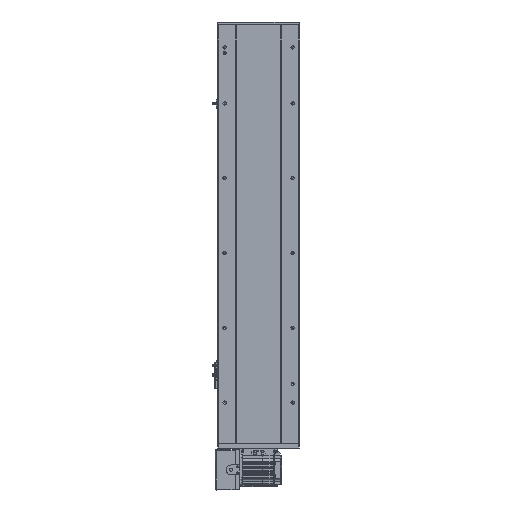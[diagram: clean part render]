
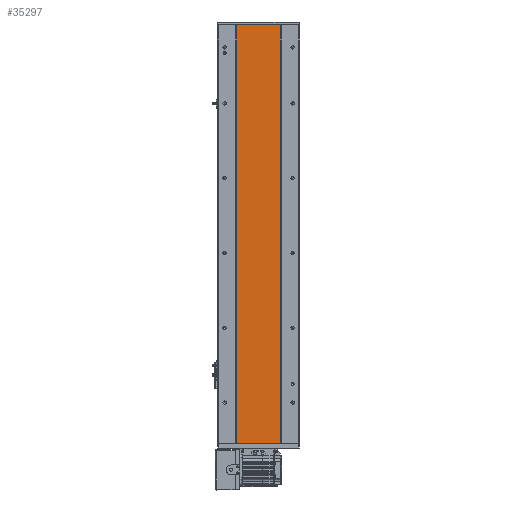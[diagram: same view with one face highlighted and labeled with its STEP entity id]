
A CAD part, front view. The second image highlights one B-rep face of the part: STEP entity #35297.
In plain terms, the highlighted planar face has unit normal (0, -1, 0).
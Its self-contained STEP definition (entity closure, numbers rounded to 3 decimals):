
#1749 = CARTESIAN_POINT ( 'NONE',  ( 0., 155.016, 1119. ) ) ;
#2478 = PLANE ( 'NONE',  #31867 ) ;
#2694 = VECTOR ( 'NONE', #43778, 1000. ) ;
#3095 = VERTEX_POINT ( 'NONE', #23187 ) ;
#6144 = VECTOR ( 'NONE', #40159, 1000. ) ;
#6363 = DIRECTION ( 'NONE',  ( 0., 0., -1. ) ) ;
#9795 = EDGE_CURVE ( 'NONE', #32452, #3095, #25160, .T. ) ;
#10277 = DIRECTION ( 'NONE',  ( 1., 0., 0. ) ) ;
#10724 = ORIENTED_EDGE ( 'NONE', *, *, #25083, .F. ) ;
#12908 = EDGE_LOOP ( 'NONE', ( #13001, #29621, #10724, #27113 ) ) ;
#13001 = ORIENTED_EDGE ( 'NONE', *, *, #49037, .T. ) ;
#13250 = VECTOR ( 'NONE', #10277, 1000. ) ;
#16887 = CARTESIAN_POINT ( 'NONE',  ( 551.58, 155.016, 1119. ) ) ;
#17907 = CARTESIAN_POINT ( 'NONE',  ( 551.58, 155.016, 0. ) ) ;
#20634 = LINE ( 'NONE', #36170, #6144 ) ;
#21032 = DIRECTION ( 'NONE',  ( 0., 1., 0. ) ) ;
#21997 = VERTEX_POINT ( 'NONE', #16887 ) ;
#23187 = CARTESIAN_POINT ( 'NONE',  ( 432.408, 155.016, 0. ) ) ;
#25083 = EDGE_CURVE ( 'NONE', #32452, #21997, #43853, .T. ) ;
#25160 = LINE ( 'NONE', #45159, #34469 ) ;
#27113 = ORIENTED_EDGE ( 'NONE', *, *, #9795, .T. ) ;
#28510 = LINE ( 'NONE', #48542, #2694 ) ;
#29332 = CARTESIAN_POINT ( 'NONE',  ( 0., 155.016, 1119. ) ) ;
#29621 = ORIENTED_EDGE ( 'NONE', *, *, #44516, .F. ) ;
#31867 = AXIS2_PLACEMENT_3D ( 'NONE', #1749, #21032, #47840 ) ;
#32404 = VERTEX_POINT ( 'NONE', #17907 ) ;
#32452 = VERTEX_POINT ( 'NONE', #40702 ) ;
#34469 = VECTOR ( 'NONE', #6363, 1000. ) ;
#35297 = ADVANCED_FACE ( 'NONE', ( #40053 ), #2478, .F. ) ;
#36170 = CARTESIAN_POINT ( 'NONE',  ( 0., 155.016, 0. ) ) ;
#40053 = FACE_OUTER_BOUND ( 'NONE', #12908, .T. ) ;
#40159 = DIRECTION ( 'NONE',  ( 1., 0., 0. ) ) ;
#40702 = CARTESIAN_POINT ( 'NONE',  ( 432.408, 155.016, 1119. ) ) ;
#43778 = DIRECTION ( 'NONE',  ( 0., 0., -1. ) ) ;
#43853 = LINE ( 'NONE', #29332, #13250 ) ;
#44516 = EDGE_CURVE ( 'NONE', #21997, #32404, #28510, .T. ) ;
#45159 = CARTESIAN_POINT ( 'NONE',  ( 432.408, 155.016, 1119. ) ) ;
#47840 = DIRECTION ( 'NONE',  ( 0., 0., 1. ) ) ;
#48542 = CARTESIAN_POINT ( 'NONE',  ( 551.58, 155.016, 1119. ) ) ;
#49037 = EDGE_CURVE ( 'NONE', #3095, #32404, #20634, .T. ) ;
